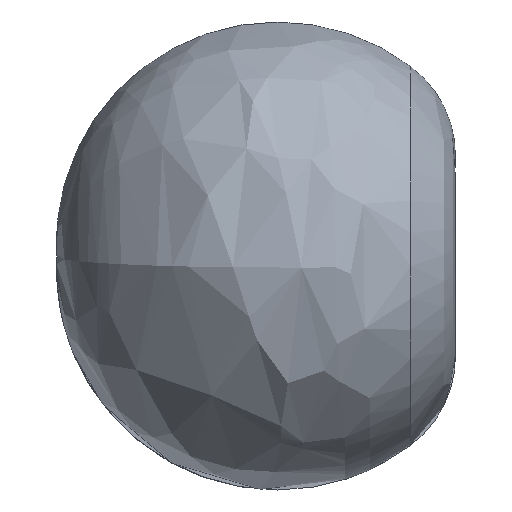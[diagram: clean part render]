
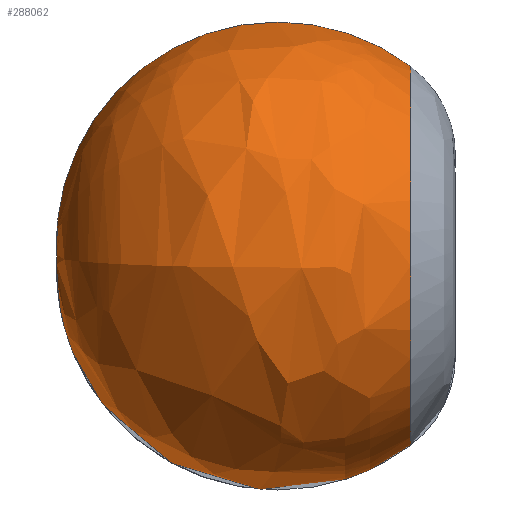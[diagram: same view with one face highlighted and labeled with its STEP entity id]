
A CAD part, left-side view. The second image highlights one B-rep face of the part: STEP entity #288062.
In plain terms, the highlighted free-form (B-spline) face has degree [3, 3] with [7, 4] control points.
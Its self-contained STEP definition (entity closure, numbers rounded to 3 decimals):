
#287767=CARTESIAN_POINT('',(-2.617,370.,
49.927));
#287768=DIRECTION('',(-0.999,0.,
-0.052));
#287769=DIRECTION('',(-0.042,-0.602,0.798));
#287770=AXIS2_PLACEMENT_3D('',#287767,#287768,#287769);
#287836=CARTESIAN_POINT('',(2.617,370.,
49.927));
#287837=DIRECTION('',(0.999,0.,-0.052));
#287838=DIRECTION('',(-0.003,0.998,-0.058));
#287839=AXIS2_PLACEMENT_3D('',#287836,#287837,#287838);
#287856=CARTESIAN_POINT('',(0.,-143.649,
0.));
#287857=DIRECTION('',(0.,1.,0.));
#287858=DIRECTION('',(0.052,0.,0.999));
#287859=AXIS2_PLACEMENT_3D('',#287856,#287857,#287858);
#287861=CARTESIAN_POINT('',(0.,-143.649,
0.));
#287862=DIRECTION('',(0.,1.,0.));
#287863=DIRECTION('',(0.052,0.,-0.999));
#287864=AXIS2_PLACEMENT_3D('',#287861,#287862,#287863);
#287870=CARTESIAN_POINT('',(-38.291,-143.651,
730.635));
#287871=VERTEX_POINT('',#287870);
#287872=CARTESIAN_POINT('',(0.,1222.037,
0.));
#287873=VERTEX_POINT('',#287872);
#287888=CARTESIAN_POINT('',(38.291,-143.649,
730.632));
#287889=VERTEX_POINT('',#287888);
#287890=CARTESIAN_POINT('',(38.333,-143.649,
-730.635));
#287891=VERTEX_POINT('',#287890);
#288025=CARTESIAN_POINT('',(1.981,-174.124,
707.562));
#288026=CARTESIAN_POINT('',(3.535,496.546,
1262.523));
#288027=CARTESIAN_POINT('',(2.433,1273.029,
869.008));
#288028=CARTESIAN_POINT('',(0.,1222.037,0.));
#288029=CARTESIAN_POINT('',(1413.152,-174.124,
703.611));
#288030=CARTESIAN_POINT('',(2521.528,496.546,
1255.473));
#288031=CARTESIAN_POINT('',(1735.595,1273.029,
864.156));
#288032=CARTESIAN_POINT('',(0.,1222.037,
0.));
#288033=CARTESIAN_POINT('',(1411.176,-174.124,
-707.564));
#288034=CARTESIAN_POINT('',(2518.003,496.545,
-1262.528));
#288035=CARTESIAN_POINT('',(1733.169,1273.029,
-869.012));
#288036=CARTESIAN_POINT('',(0.,1222.037,
0.));
#288037=CARTESIAN_POINT('',(0.,-174.124,
-707.564));
#288038=CARTESIAN_POINT('',(0.,496.545,
-1262.528));
#288039=CARTESIAN_POINT('',(0.,1273.029,
-869.012));
#288040=CARTESIAN_POINT('',(0.,1222.037,
0.));
#288041=CARTESIAN_POINT('',(-1411.176,-174.124,
-707.564));
#288042=CARTESIAN_POINT('',(-2518.003,496.545,
-1262.528));
#288043=CARTESIAN_POINT('',(-1733.169,1273.029,
-869.012));
#288044=CARTESIAN_POINT('',(0.,1222.037,
0.));
#288045=CARTESIAN_POINT('',(-1413.152,-174.124,
703.611));
#288046=CARTESIAN_POINT('',(-2521.528,496.546,
1255.473));
#288047=CARTESIAN_POINT('',(-1735.595,1273.029,
864.156));
#288048=CARTESIAN_POINT('',(0.,1222.037,
0.));
#288049=CARTESIAN_POINT('',(-1.981,-174.124,
707.562));
#288050=CARTESIAN_POINT('',(-3.535,496.546,
1262.523));
#288051=CARTESIAN_POINT('',(-2.433,1273.029,
869.008));
#288052=CARTESIAN_POINT('',(0.,1222.037,0.));
#288053=(BOUNDED_SURFACE()B_SPLINE_SURFACE(3,3,((#288025,#288026,#288027,
#288028),(#288029,#288030,#288031,#288032),(#288033,#288034,#288035,#288036),(
#288037,#288038,#288039,#288040),(#288041,#288042,#288043,#288044),(#288045,
#288046,#288047,#288048),(#288049,#288050,#288051,#288052)),.UNSPECIFIED.,.F.,
.F.,.F.)B_SPLINE_SURFACE_WITH_KNOTS((4,3,4),(4,4),(0.,1.,2.),(0.,1.),
.UNSPECIFIED.)GEOMETRIC_REPRESENTATION_ITEM()RATIONAL_B_SPLINE_SURFACE(((
2.855,1.711,1.711,2.855),(
0.954,0.572,0.572,0.954),(
0.954,0.572,0.572,0.954),(
2.855,1.711,1.711,2.855),(
0.954,0.572,0.572,0.954),(
0.954,0.572,0.572,0.954),(
2.855,1.711,1.711,2.855)))REPRESENTATION_ITEM('')SURFACE());
#288054=ORIENTED_EDGE('',*,*,#287901,.F.);
#288056=ORIENTED_EDGE('',*,*,#288055,.F.);
#288058=ORIENTED_EDGE('',*,*,#288057,.F.);
#288059=ORIENTED_EDGE('',*,*,#288018,.F.);
#288060=EDGE_LOOP('',(#288054,#288056,#288058,#288059));
#288061=FACE_OUTER_BOUND('',#288060,.F.);
#288062=ADVANCED_FACE('',(#288061),#288053,.T.);
#287771=CIRCLE('',#287770,853.503);
#287840=CIRCLE('',#287839,853.503);
#287860=CIRCLE('',#287859,731.64);
#287865=CIRCLE('',#287864,731.64);
#287901=EDGE_CURVE('',#287871,#287873,#287771,.T.);
#288018=EDGE_CURVE('',#287873,#287889,#287840,.T.);
#288055=EDGE_CURVE('',#287891,#287871,#287865,.T.);
#288057=EDGE_CURVE('',#287889,#287891,#287860,.T.);
